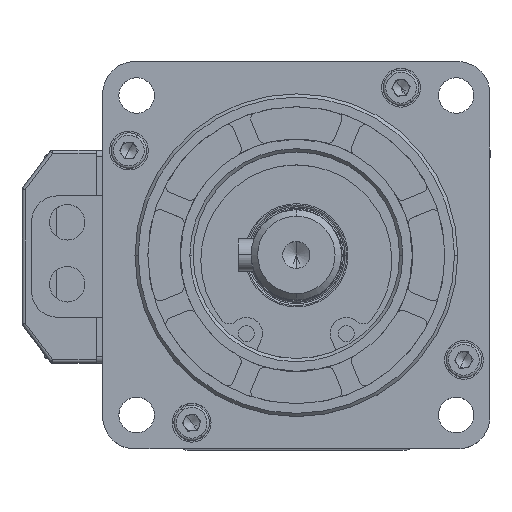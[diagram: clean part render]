
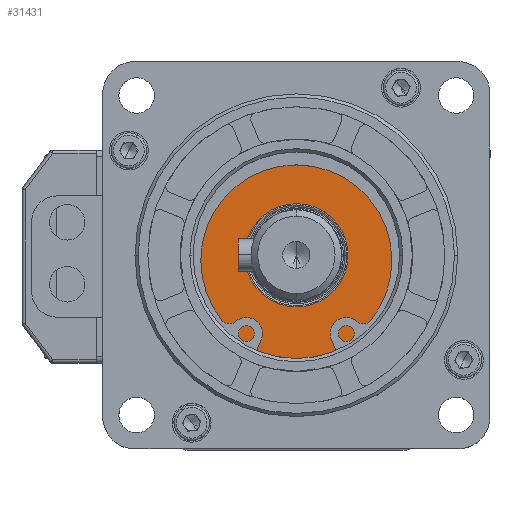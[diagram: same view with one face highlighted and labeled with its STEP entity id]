
A CAD part, top view. The second image highlights one B-rep face of the part: STEP entity #31431.
In plain terms, the highlighted planar face has unit normal (0, 0, 1).
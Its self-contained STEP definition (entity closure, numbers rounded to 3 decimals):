
#274 = PLANE ( 'NONE',  #18261 ) ;
#1313 = VERTEX_POINT ( 'NONE', #5095 ) ;
#2568 = CARTESIAN_POINT ( 'NONE',  ( 0., 0., 2.6 ) ) ;
#3834 = DIRECTION ( 'NONE',  ( 0., 0., 1. ) ) ;
#5095 = CARTESIAN_POINT ( 'NONE',  ( -5.998, 5.294, 2.6 ) ) ;
#7004 = DIRECTION ( 'NONE',  ( 0.75, -0.662, 0. ) ) ;
#7642 = CARTESIAN_POINT ( 'NONE',  ( -11.995, 10.589, 2.6 ) ) ;
#8364 = CARTESIAN_POINT ( 'NONE',  ( 0., 0., 2.6 ) ) ;
#8864 = EDGE_CURVE ( 'NONE', #1313, #13312, #42462, .T. ) ;
#9725 = AXIS2_PLACEMENT_3D ( 'NONE', #27847, #38089, #17433 ) ;
#10650 = DIRECTION ( 'NONE',  ( 0.75, -0.662, 0. ) ) ;
#12421 = CARTESIAN_POINT ( 'NONE',  ( 5.998, -5.294, 2.6 ) ) ;
#12507 = EDGE_LOOP ( 'NONE', ( #13228, #32327 ) ) ;
#13228 = ORIENTED_EDGE ( 'NONE', *, *, #8864, .F. ) ;
#13312 = VERTEX_POINT ( 'NONE', #12421 ) ;
#13512 = DIRECTION ( 'NONE',  ( 0., 0., 1. ) ) ;
#14946 = EDGE_LOOP ( 'NONE', ( #21775, #16316 ) ) ;
#15353 = CIRCLE ( 'NONE', #40172, 8. ) ;
#16316 = ORIENTED_EDGE ( 'NONE', *, *, #42613, .T. ) ;
#17433 = DIRECTION ( 'NONE',  ( 0.75, -0.662, 0. ) ) ;
#18261 = AXIS2_PLACEMENT_3D ( 'NONE', #37830, #3834, #10650 ) ;
#20692 = VERTEX_POINT ( 'NONE', #7642 ) ;
#21060 = CIRCLE ( 'NONE', #38309, 16. ) ;
#21775 = ORIENTED_EDGE ( 'NONE', *, *, #31532, .T. ) ;
#22533 = EDGE_CURVE ( 'NONE', #13312, #1313, #15353, .T. ) ;
#23781 = VERTEX_POINT ( 'NONE', #42038 ) ;
#25223 = AXIS2_PLACEMENT_3D ( 'NONE', #8364, #25485, #42708 ) ;
#25485 = DIRECTION ( 'NONE',  ( 0., 0., 1. ) ) ;
#27847 = CARTESIAN_POINT ( 'NONE',  ( 0., 0., 2.6 ) ) ;
#31431 = ADVANCED_FACE ( 'NONE', ( #38587, #43897 ), #274, .T. ) ;
#31532 = EDGE_CURVE ( 'NONE', #20692, #23781, #35944, .T. ) ;
#32327 = ORIENTED_EDGE ( 'NONE', *, *, #22533, .F. ) ;
#33144 = DIRECTION ( 'NONE',  ( 0., 0., 1. ) ) ;
#35944 = CIRCLE ( 'NONE', #9725, 16. ) ;
#37323 = CARTESIAN_POINT ( 'NONE',  ( 0., 0., 2.6 ) ) ;
#37830 = CARTESIAN_POINT ( 'NONE',  ( 0., 0., 2.6 ) ) ;
#38089 = DIRECTION ( 'NONE',  ( 0., 0., 1. ) ) ;
#38309 = AXIS2_PLACEMENT_3D ( 'NONE', #37323, #13512, #7004 ) ;
#38587 = FACE_OUTER_BOUND ( 'NONE', #14946, .T. ) ;
#39989 = DIRECTION ( 'NONE',  ( 0.75, -0.662, 0. ) ) ;
#40172 = AXIS2_PLACEMENT_3D ( 'NONE', #2568, #33144, #39989 ) ;
#42038 = CARTESIAN_POINT ( 'NONE',  ( 11.995, -10.589, 2.6 ) ) ;
#42462 = CIRCLE ( 'NONE', #25223, 8. ) ;
#42613 = EDGE_CURVE ( 'NONE', #23781, #20692, #21060, .T. ) ;
#42708 = DIRECTION ( 'NONE',  ( 0.75, -0.662, 0. ) ) ;
#43897 = FACE_BOUND ( 'NONE', #12507, .T. ) ;
